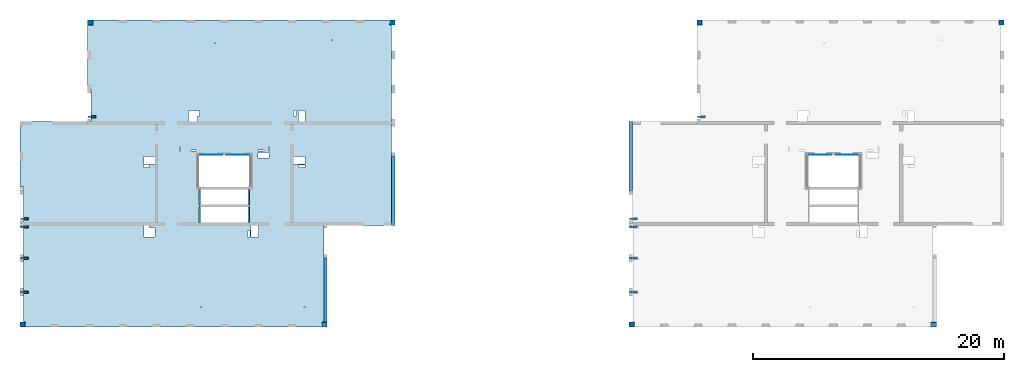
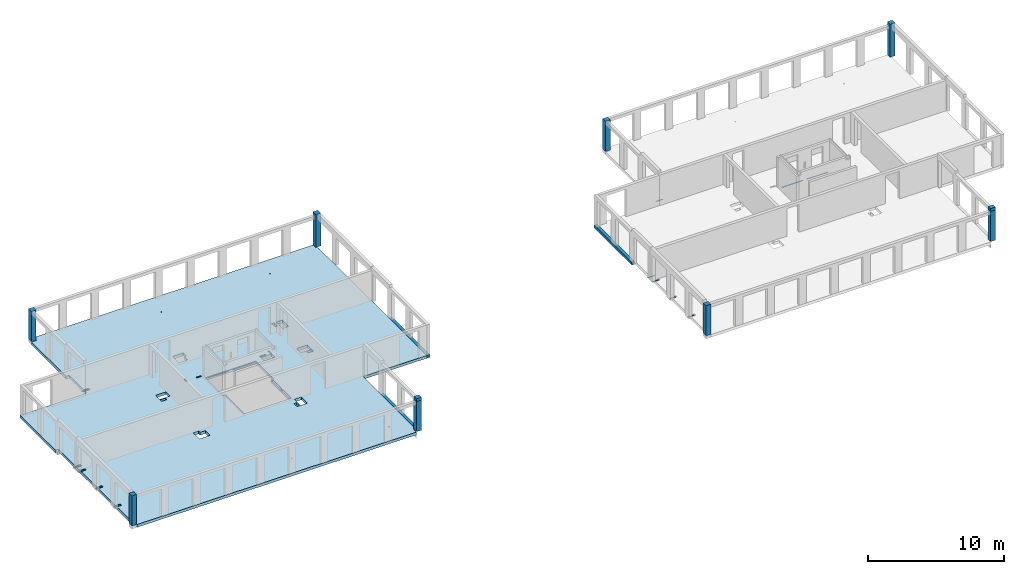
# One storey, part 1 of 8: 14 beams, 10 columns, 4 slabs, 33 openings.
"""IFC2X3 building model written with IfcOpenShell, lengths in millimetres."""

from ifc_helpers import new_model, entity, si_unit, converted_unit, derived_unit, direction, frame, frame_2d, origin, origin_2d_with_axis, place, context, subcontext, project, spatial, polyline, rectangle, circle, outline, extrude, source, transform, mapped, material, layer, layer_set, layer_usage, type_object, type_shapes, element, save


model = new_model("IFC2X3")

# Units and contexts
model_context = context("Model", 3, precision=0.01, world=origin(), true_north=direction((6.12303176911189e-17, 1.0)))
body_context = subcontext(model_context, "Body", "Model", "MODEL_VIEW")
ifc_project = project(units=[si_unit("LENGTHUNIT", "METRE", prefix="MILLI"), si_unit("AREAUNIT", "SQUARE_METRE"), si_unit("VOLUMEUNIT", "CUBIC_METRE"), converted_unit("PLANEANGLEUNIT", "DEGREE", entity("IfcRatioMeasure", 0.0174532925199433), si_unit("PLANEANGLEUNIT", "RADIAN"), dimensions=[0, 0, 0, 0, 0, 0, 0]), si_unit("MASSUNIT", "GRAM", prefix="KILO"), derived_unit("MASSDENSITYUNIT", [(si_unit("MASSUNIT", "GRAM", prefix="KILO"), 1), (si_unit("LENGTHUNIT", "METRE"), -3)]), si_unit("TIMEUNIT", "SECOND"), si_unit("FREQUENCYUNIT", "HERTZ"), si_unit("THERMODYNAMICTEMPERATUREUNIT", "DEGREE_CELSIUS"), derived_unit("THERMALTRANSMITTANCEUNIT", [(si_unit("MASSUNIT", "GRAM", prefix="KILO"), 1), (si_unit("THERMODYNAMICTEMPERATUREUNIT", "KELVIN"), -1), (si_unit("TIMEUNIT", "SECOND"), -3)]), derived_unit("VOLUMETRICFLOWRATEUNIT", [(si_unit("LENGTHUNIT", "METRE"), 3), (si_unit("TIMEUNIT", "SECOND"), -1)]), si_unit("ELECTRICCURRENTUNIT", "AMPERE"), si_unit("ELECTRICVOLTAGEUNIT", "VOLT"), si_unit("POWERUNIT", "WATT"), si_unit("FORCEUNIT", "NEWTON", prefix="KILO"), si_unit("ILLUMINANCEUNIT", "LUX"), si_unit("LUMINOUSFLUXUNIT", "LUMEN"), si_unit("LUMINOUSINTENSITYUNIT", "CANDELA"), derived_unit("USERDEFINED", [(si_unit("MASSUNIT", "GRAM", prefix="KILO"), -1), (si_unit("LENGTHUNIT", "METRE"), -2), (si_unit("TIMEUNIT", "SECOND"), 3), (si_unit("LUMINOUSFLUXUNIT", "LUMEN"), 1)]), derived_unit("LINEARVELOCITYUNIT", [(si_unit("LENGTHUNIT", "METRE"), 1), (si_unit("TIMEUNIT", "SECOND"), -1)]), si_unit("PRESSUREUNIT", "PASCAL"), derived_unit("USERDEFINED", [(si_unit("LENGTHUNIT", "METRE"), -2), (si_unit("MASSUNIT", "GRAM", prefix="KILO"), 1), (si_unit("TIMEUNIT", "SECOND"), -2)])], contexts=[model_context])

# Site, building, storey
site_placement = place(None, origin())
site = spatial("IfcSite", under=ifc_project, at=site_placement, Name="Default", CompositionType="ELEMENT")
building_placement = place(site_placement, origin())
building = spatial("IfcBuilding", under=site, at=building_placement, Name="niet gebruiken", CompositionType="ELEMENT")
storey_placement = place(building_placement, frame((0.0, 0.0, 36360.0)))
storey = spatial("IfcBuildingStorey", under=building, at=storey_placement, Name="12 twaalfde verdieping", CompositionType="ELEMENT", Elevation=36360.0)

# Columns
ifc_material_1 = material(Name="NLRS_f2_beton prefab")
column_type_1 = type_object("IfcColumnType", Name="410x410", PredefinedType="COLUMN", material=ifc_material_1)
shared_shape_1 = source(origin(), body_context, "Body", "SweptSolid", [
    extrude(rectangle(XDim=410.0, YDim=410.0, at=origin_2d_with_axis()), frame((0.0, 0.0, 36290.0), z_axis=(0.0, 0.0, 1.0), x_axis=(0.0, -1.0, 0.0)), (0.0, 0.0, 1.0), 2699.99999999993),
])
type_shapes(column_type_1, [shared_shape_1])
for number, where, name in (
    (1, (99795.0, 28961.0, -36360.0), "NLRS_28. kolom vierkant_gen:410x410"),
    (2, (81105.0, 53051.0, -36360.0), "NLRS_28. kolom vierkant_gen:410x410"),
    (3, (51195.0, 28961.0, -36360.0), "NLRS_28. kolom vierkant_gen:410x410"),
    (4, (32505.0, 53051.0, -36360.0), "NLRS_28. kolom vierkant_gen:410x410"),
):
    element("IfcColumn", number, at=place(storey_placement, frame(where)), inside=storey, type_object=column_type_1, material=ifc_material_1, Name=name, ObjectType="410x410", context=body_context, shape_type="MappedRepresentation", body=[
        mapped(shared_shape_1, transform((0.0, 0.0, 0.0), scale=1.0)),
    ])
column_type_2 = type_object("IfcColumnType", Name="410x410", PredefinedType="COLUMN", material=ifc_material_1)
shared_shape_2 = source(origin(), body_context, "Body", "SweptSolid", [
    extrude(rectangle(XDim=410.0, YDim=410.0, at=origin_2d_with_axis()), frame((0.0, 0.0, 36290.0), z_axis=(0.0, 0.0, 1.0), x_axis=(0.0, -1.0, 0.0)), (0.0, 0.0, 1.0), 2700.0),
])
type_shapes(column_type_2, [shared_shape_2])
for number, where, z_axis, x_axis, name in (
    (5, (75705.0, 28961.0, -36360.0), (0.0, 0.0, 1.0), (0.0, 1.0, 0.0), "NLRS_28. kolom vierkant_gen1:410x410"),
    (6, (27105.0, 28961.0, -36360.0), (0.0, 0.0, 1.0), (0.0, 1.0, 0.0), "NLRS_28. kolom vierkant_gen1:410x410"),
):
    element("IfcColumn", number, at=place(storey_placement, frame(where, z_axis=z_axis, x_axis=x_axis)), inside=storey, type_object=column_type_2, material=ifc_material_1, Name=name, ObjectType="410x410", context=body_context, shape_type="MappedRepresentation", body=[
        mapped(shared_shape_2, transform((0.0, 0.0, 0.0), scale=1.0)),
    ])
column_type_3 = type_object("IfcColumnType", Name="410x410", PredefinedType="COLUMN", material=ifc_material_1)
shared_shape_3 = source(origin(), body_context, "Body", "SweptSolid", [
    extrude(rectangle(XDim=410.000000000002, YDim=409.999999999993, at=origin_2d_with_axis()), frame((105195.0, 53051.0, 36290.0), z_axis=(0.0, 0.0, 1.0), x_axis=(0.0, -1.0, 0.0)), (0.0, 0.0, 1.0), 2950.00000000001),
])
type_shapes(column_type_3, [shared_shape_3])
column_1_placement = place(storey_placement, frame((0.0, 0.0, -36360.0)))
element("IfcColumn", 7, at=column_1_placement, inside=storey, type_object=column_type_3, material=ifc_material_1, Name="NLRS_28. kolom vierkant_gen:410x410", ObjectType="410x410", context=body_context, shape_type="MappedRepresentation", body=[
    mapped(shared_shape_3, transform((0.0, 0.0, 0.0), scale=1.0)),
])
column_type_4 = type_object("IfcColumnType", Name="410x410", PredefinedType="COLUMN", material=ifc_material_1)
shared_shape_4 = source(origin(), body_context, "Body", "SweptSolid", [
    extrude(rectangle(XDim=410.000000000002, YDim=410.000000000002, at=frame_2d((8.66862137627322e-12, 0.0), x_axis=(1.0, 0.0))), frame((56595.0, 53051.0, 36290.0), z_axis=(0.0, 0.0, 1.0), x_axis=(0.0, -1.0, 0.0)), (0.0, 0.0, 1.0), 2950.00000000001),
])
type_shapes(column_type_4, [shared_shape_4])
column_2_placement = place(storey_placement, frame((0.0, 0.0, -36360.0)))
element("IfcColumn", 8, at=column_2_placement, inside=storey, type_object=column_type_4, material=ifc_material_1, Name="NLRS_28. kolom vierkant_gen:410x410", ObjectType="410x410", context=body_context, shape_type="MappedRepresentation", body=[
    mapped(shared_shape_4, transform((0.0, 0.0, 0.0), scale=1.0)),
])
column_type_5 = type_object("IfcColumnType", Name="410x360", PredefinedType="COLUMN", material=ifc_material_1)
shared_shape_5 = source(origin(), body_context, "Body", "SweptSolid", [
    extrude(rectangle(XDim=360.0, YDim=409.999999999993, at=origin_2d_with_axis()), frame((99795.0, 28936.0, 38990.0), z_axis=(0.0, 0.0, 1.0), x_axis=(0.0, -1.0, 0.0)), (0.0, 0.0, 1.0), 250.000000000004),
])
type_shapes(column_type_5, [shared_shape_5])
column_3_placement = place(storey_placement, frame((0.0, 0.0, -36360.0)))
element("IfcColumn", 9, at=column_3_placement, inside=storey, type_object=column_type_5, material=ifc_material_1, Name="NLRS_28. kolom vierkant_gen:410x360", ObjectType="410x360", context=body_context, shape_type="MappedRepresentation", body=[
    mapped(shared_shape_5, transform((0.0, 0.0, 0.0), scale=1.0)),
])
column_type_6 = type_object("IfcColumnType", Name="410x360", PredefinedType="COLUMN", material=ifc_material_1)
shared_shape_6 = source(origin(), body_context, "Body", "SweptSolid", [
    extrude(rectangle(XDim=360.0, YDim=410.000000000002, at=origin_2d_with_axis()), frame((51195.0, 28936.0, 38990.0), z_axis=(0.0, 0.0, 1.0), x_axis=(0.0, -1.0, 0.0)), (0.0, 0.0, 1.0), 250.000000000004),
])
type_shapes(column_type_6, [shared_shape_6])
column_4_placement = place(storey_placement, frame((0.0, 0.0, -36360.0)))
element("IfcColumn", 10, at=column_4_placement, inside=storey, type_object=column_type_6, material=ifc_material_1, Name="NLRS_28. kolom vierkant_gen:410x360", ObjectType="410x360", context=body_context, shape_type="MappedRepresentation", body=[
    mapped(shared_shape_6, transform((0.0, 0.0, 0.0), scale=1.0)),
])

# Beams
ifc_material_2 = material(Name="NLRS_h2_staal")
beam_type_1 = type_object("IfcBeamType", Name="ligger stripstaal RECT_120x10", PredefinedType="BEAM", material=ifc_material_2)
shared_shape_7 = source(origin(), body_context, "Body", "SweptSolid", [
    extrude(rectangle(XDim=599.999999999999, YDim=120.0, at=origin_2d_with_axis()), frame((0.0, 0.0, -5.0), z_axis=(0.0, 0.0, 1.0), x_axis=(-1.0, 0.0, 0.0)), (0.0, 0.0, 1.0), 9.99999999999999),
    extrude(rectangle(XDim=599.999999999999, YDim=120.0, at=origin_2d_with_axis()), frame((0.0, 0.0, -5.0), z_axis=(0.0, 0.0, 1.0), x_axis=(-1.0, 0.0, 0.0)), (0.0, 0.0, 1.0), 9.99999999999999),
])
type_shapes(beam_type_1, [shared_shape_7])
for number, where, name in (
    (11, (75835.0, 31556.0, -115.0), "NLRS_28.11_SF_WPB_stalen ligger stripstaal_gen:ligger stripstaal RECT_120x10"),
    (12, (75835.0, 34256.0, -115.0), "NLRS_28.11_SF_WPB_stalen ligger stripstaal_gen:ligger stripstaal RECT_120x10"),
    (13, (75835.0, 36766.0, -115.0), "NLRS_28.11_SF_WPB_stalen ligger stripstaal_gen:ligger stripstaal RECT_120x10"),
    (14, (27235.0, 31556.0, -115.0), "NLRS_28.11_SF_WPB_stalen ligger stripstaal_gen:ligger stripstaal RECT_120x10"),
    (15, (27235.0, 34256.0, -115.0), "NLRS_28.11_SF_WPB_stalen ligger stripstaal_gen:ligger stripstaal RECT_120x10"),
    (16, (27235.0, 36766.0, -115.0), "NLRS_28.11_SF_WPB_stalen ligger stripstaal_gen:ligger stripstaal RECT_120x10"),
):
    element("IfcBeam", number, at=place(storey_placement, frame(where)), inside=storey, type_object=beam_type_1, material=ifc_material_2, Name=name, ObjectType="ligger stripstaal RECT_120x10", context=body_context, shape_type="MappedRepresentation", body=[
        mapped(shared_shape_7, transform((0.0, 0.0, 0.0), scale=1.0)),
    ])
beam_type_2 = type_object("IfcBeamType", Name="NLRS_28.11_SF_WPB_Halfen 40-22_gen:ligger stripstaal RECT_100x10", PredefinedType="BEAM")
beam_1_placement = place(storey_placement, frame((89865.0, 42496.0, -160.0)))
element("IfcBeam", 17, at=beam_1_placement, inside=storey, type_object=beam_type_2, material=ifc_material_2, Name="NLRS_28.11_SF_WPB_Halfen 40-22_gen:ligger stripstaal RECT_100x10", ObjectType="NLRS_28.11_SF_WPB_Halfen 40-22_gen:ligger stripstaal RECT_100x10", context=body_context, shape_type="SweptSolid", body=[
    extrude(outline(polyline([(-20.0, -8.0), (-9.0, -8.0), (-9.0, 0.0), (-11.0, 0.0), (-11.0, -6.0), (-18.0, -6.0), (-18.0, 13.0), (18.0, 13.0), (18.0, -6.0), (11.0, -6.0), (11.0, 0.0), (9.0, 0.0), (9.0, -8.0), (20.0, -8.0), (20.0, 15.0), (-20.0, 15.0), (-20.0, -8.0)])), frame((0.0, 8.0, 20.0), z_axis=(1.0, 0.0, 0.0), x_axis=(0.0, 0.0, -1.0)), (0.0, 0.0, 1.0), 1760.00000000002),
])
beam_2_placement = place(storey_placement, frame((91975.0, 42496.0, -160.0)))
element("IfcBeam", 18, at=beam_2_placement, inside=storey, type_object=beam_type_2, material=ifc_material_2, Name="NLRS_28.11_SF_WPB_Halfen 40-22_gen:ligger stripstaal RECT_100x10", ObjectType="NLRS_28.11_SF_WPB_Halfen 40-22_gen:ligger stripstaal RECT_100x10", context=body_context, shape_type="SweptSolid", body=[
    extrude(outline(polyline([(-20.0, -8.0), (-9.0, -8.0), (-9.0, 0.0), (-11.0, 0.0), (-11.0, -6.0), (-18.0, -6.0), (-18.0, 13.0), (18.0, 13.0), (18.0, -6.0), (11.0, -6.0), (11.0, 0.0), (9.0, 0.0), (9.0, -8.0), (20.0, -8.0), (20.0, 15.0), (-20.0, 15.0), (-20.0, -8.0)])), frame((0.0, 8.0, 20.0), z_axis=(1.0, 0.0, 0.0), x_axis=(0.0, 0.0, -1.0)), (0.0, 0.0, 1.0), 1760.0),
])
for number, where, name in (
    (19, (41264.9998491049, 42496.0, -160.0), "NLRS_28.11_SF_WPB_Halfen 40-22_gen:ligger stripstaal RECT_100x10"),
    (20, (43374.999849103, 42496.0, -160.0), "NLRS_28.11_SF_WPB_Halfen 40-22_gen:ligger stripstaal RECT_100x10"),
):
    element("IfcBeam", number, at=place(storey_placement, frame(where)), inside=storey, type_object=beam_type_2, material=ifc_material_2, Name=name, ObjectType="NLRS_28.11_SF_WPB_Halfen 40-22_gen:ligger stripstaal RECT_100x10", context=body_context, shape_type="SweptSolid", body=[
        extrude(outline(polyline([(-20.0, -8.0), (-9.0, -8.0), (-9.0, 0.0), (-11.0, 0.0), (-11.0, -6.0), (-18.0, -6.0), (-18.0, 13.0), (18.0, 13.0), (18.0, -6.0), (11.0, -6.0), (11.0, 0.0), (9.0, 0.0), (9.0, -8.0), (20.0, -8.0), (20.0, 15.0), (-20.0, 15.0), (-20.0, -8.0)])), frame((0.0, 8.0, 20.0), z_axis=(1.0, 0.0, 0.0), x_axis=(0.0, 0.0, -1.0)), (0.0, 0.0, 1.0), 1760.00000000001),
    ])
beam_type_3 = type_object("IfcBeamType", Name="ligger stripstaal RECT_120x10", PredefinedType="BEAM", material=ifc_material_2)
shared_shape_8 = source(origin(), body_context, "Body", "SweptSolid", [
    extrude(rectangle(XDim=120.0, YDim=600.000000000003, at=origin_2d_with_axis()), frame((0.0, 0.0, -5.0), z_axis=(0.0, 0.0, 1.0), x_axis=(0.0, 1.0, 0.0)), (0.0, 0.0, 1.0), 9.99999999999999),
    extrude(rectangle(XDim=120.0, YDim=600.000000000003, at=origin_2d_with_axis()), frame((0.0, 0.0, -5.0), z_axis=(0.0, 0.0, 1.0), x_axis=(0.0, 1.0, 0.0)), (0.0, 0.0, 1.0), 9.99999999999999),
])
type_shapes(beam_type_3, [shared_shape_8])
for number, where, name in (
    (21, (75835.0, 37386.0, -115.0), "NLRS_28.11_SF_WPB_stalen ligger stripstaal_gen:ligger stripstaal RECT_120x10"),
    (22, (81235.0, 45521.0, -115.0), "NLRS_28.11_SF_WPB_stalen ligger stripstaal_gen:ligger stripstaal RECT_120x10"),
    (23, (27235.0, 37386.0, -115.0), "NLRS_28.11_SF_WPB_stalen ligger stripstaal_gen:ligger stripstaal RECT_120x10"),
    (24, (32635.0, 45521.0, -115.0), "NLRS_28.11_SF_WPB_stalen ligger stripstaal_gen:ligger stripstaal RECT_120x10"),
):
    element("IfcBeam", number, at=place(storey_placement, frame(where)), inside=storey, type_object=beam_type_3, material=ifc_material_2, Name=name, ObjectType="ligger stripstaal RECT_120x10", context=body_context, shape_type="MappedRepresentation", body=[
        mapped(shared_shape_8, transform((0.0, 0.0, 0.0), scale=1.0)),
    ])

# Slab, openings
ifc_material_3 = material(Name="NLRS_f2_beton ihwg")
ifc_layer = layer(ifc_material_3, 250.0)
ifc_layer_set = layer_set([ifc_layer], Name="Floor:NLRS_23.21_FL_beton ihwg d=250_gen")
ifc_layer_usage_1 = layer_usage(ifc_layer_set, "AXIS3", "POSITIVE", 0.0)
slab_1_placement = place(storey_placement, frame((26900.0, 28756.0, -340.0)))
slab_1 = element("IfcSlab", 25, at=slab_1_placement, inside=storey, material=ifc_layer_usage_1, Name="Floor:NLRS_23.21_FL_beton ihwg d=250_gen", ObjectType="Floor:NLRS_23.21_FL_beton ihwg d=250_gen", PredefinedType="FLOOR", context=body_context, shape_type="SweptSolid", body=[
    extrude(outline(polyline([(8994.99996701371, 12250.0), (-14665.0, 12250.0), (-14665.0, 11840.0), (-14805.0, 11840.0), (-14805.0, 4060.0), (-14825.0, 4060.0), (-14825.0, -4150.0), (-9425.0, -4150.0), (-9425.0, -11890.0), (-9265.0, -11890.0), (-9265.0, -12250.0), (14395.0, -12250.0), (14395.0, -11820.0), (14535.0, -11820.0), (14535.0, -4060.0), (14555.0, -4060.0), (14555.0, -1040.0), (14825.0, -1040.0), (14825.0, 4150.0), (9155.0, 4150.0), (9155.0, 6750.0), (9425.0, 6750.0), (9425.0, 11820.0), (8994.99996701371, 11820.0), (8994.99996701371, 12250.0)])), frame((14825.0, 12250.0, 250.0), z_axis=(0.0, 0.0, -1.0), x_axis=(-1.0, 0.0, 0.0)), (0.0, 0.0, 1.0), 249.999999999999),
])
opening_1_placement = place(storey_placement, frame((26900.0, 28756.0, -340.0)))
element("IfcOpeningElement", 26, at=opening_1_placement, cuts=slab_1, ObjectType="Opening", context=body_context, shape_type="SweptSolid", body=[
    extrude(circle(Radius=37.5, at=frame_2d((-7875.0, -10650.0), x_axis=(1.0, 0.0))), frame((14825.0, 12250.0, 250.0), z_axis=(0.0, 0.0, -1.0), x_axis=(-1.0, 0.0, 0.0)), (0.0, 0.0, 1.0), 249.999999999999),
])
opening_2_placement = place(storey_placement, frame((26900.0, 28756.0, -340.0)))
element("IfcOpeningElement", 27, at=opening_2_placement, cuts=slab_1, ObjectType="Opening", context=body_context, shape_type="SweptSolid", body=[
    extrude(circle(Radius=37.5, at=frame_2d((-10075.0, 10650.0), x_axis=(1.0, 0.0))), frame((14825.0, 12250.0, 250.0), z_axis=(0.0, 0.0, -1.0), x_axis=(-1.0, 0.0, 0.0)), (0.0, 0.0, 1.0), 249.999999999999),
])
opening_3_placement = place(storey_placement, frame((26900.0, 28756.0, -340.0)))
element("IfcOpeningElement", 28, at=opening_3_placement, cuts=slab_1, ObjectType="Opening", context=body_context, shape_type="SweptSolid", body=[
    extrude(circle(Radius=37.5, at=frame_2d((-725.0, 10400.0), x_axis=(1.0, 0.0))), frame((14825.0, 12250.0, 250.0), z_axis=(0.0, 0.0, -1.0), x_axis=(-1.0, 0.0, 0.0)), (0.0, 0.0, 1.0), 249.999999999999),
])
opening_4_placement = place(storey_placement, frame((26900.0, 28756.0, -340.0)))
element("IfcOpeningElement", 29, at=opening_4_placement, cuts=slab_1, ObjectType="Opening", context=body_context, shape_type="SweptSolid", body=[
    extrude(circle(Radius=37.5, at=frame_2d((375.0, -10650.0), x_axis=(1.0, 0.0))), frame((14825.0, 12250.0, 250.0), z_axis=(0.0, 0.0, -1.0), x_axis=(-1.0, 0.0, 0.0)), (0.0, 0.0, 1.0), 249.999999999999),
])
opening_5_placement = place(slab_1_placement, origin())
element("IfcOpeningElement", 30, at=opening_5_placement, cuts=slab_1, ObjectType="Opening", context=body_context, shape_type="SweptSolid", body=[
    extrude(rectangle(XDim=110.000000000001, YDim=1220.0, at=origin_2d_with_axis()), frame((14344.9999671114, 10380.0, 210.0)), (0.0, 0.0, 1.0), 39.9999999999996),
])
opening_6_placement = place(slab_1_placement, origin())
element("IfcOpeningElement", 31, at=opening_6_placement, cuts=slab_1, ObjectType="Opening", context=body_context, shape_type="SweptSolid", body=[
    extrude(rectangle(XDim=110.000000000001, YDim=1220.0, at=origin_2d_with_axis()), frame((18255.0, 10380.0, 210.0)), (0.0, 0.0, 1.0), 39.9999999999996),
])
opening_7_placement = place(slab_1_placement, origin())
element("IfcOpeningElement", 32, at=opening_7_placement, cuts=slab_1, ObjectType="Opening", context=body_context, shape_type="SweptSolid", body=[
    extrude(rectangle(XDim=110.000000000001, YDim=1220.0, at=origin_2d_with_axis()), frame((18255.0, 8960.0, 210.0)), (0.0, 0.0, 1.0), 39.9999999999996),
])
opening_8_placement = place(slab_1_placement, origin())
element("IfcOpeningElement", 33, at=opening_8_placement, cuts=slab_1, ObjectType="Opening", context=body_context, shape_type="SweptSolid", body=[
    extrude(rectangle(XDim=110.000000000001, YDim=1220.0, at=origin_2d_with_axis()), frame((14344.9999671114, 8960.0, 210.0)), (0.0, 0.0, 1.0), 39.9999999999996),
])
opening_9_placement = place(slab_1_placement, origin())
element("IfcOpeningElement", 34, at=opening_9_placement, cuts=slab_1, ObjectType="Opening", context=body_context, shape_type="SweptSolid", body=[
    extrude(rectangle(XDim=400.000000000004, YDim=200.000000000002, at=origin_2d_with_axis()), frame((470.0, 8630.0, 220.0)), (0.0, 0.0, 1.0), 30.0000000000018),
])
opening_10_placement = place(slab_1_placement, origin())
element("IfcOpeningElement", 35, at=opening_10_placement, cuts=slab_1, ObjectType="Opening", context=body_context, shape_type="SweptSolid", body=[
    extrude(rectangle(XDim=200.000000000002, YDim=400.000000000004, at=origin_2d_with_axis()), frame((490.0, 8000.0, 220.0), z_axis=(0.0, 0.0, 1.0), x_axis=(0.0, -1.0, 0.0)), (0.0, 0.0, 1.0), 30.0000000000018),
])
opening_11_placement = place(slab_1_placement, origin())
element("IfcOpeningElement", 36, at=opening_11_placement, cuts=slab_1, ObjectType="Opening", context=body_context, shape_type="SweptSolid", body=[
    extrude(rectangle(XDim=200.000000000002, YDim=400.000000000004, at=origin_2d_with_axis()), frame((490.0, 5500.0, 220.0), z_axis=(0.0, 0.0, 1.0), x_axis=(0.0, -1.0, 0.0)), (0.0, 0.0, 1.0), 30.0000000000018),
])
opening_12_placement = place(slab_1_placement, origin())
element("IfcOpeningElement", 37, at=opening_12_placement, cuts=slab_1, ObjectType="Opening", context=body_context, shape_type="SweptSolid", body=[
    extrude(rectangle(XDim=200.000000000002, YDim=400.000000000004, at=origin_2d_with_axis()), frame((490.0, 2800.0, 220.0), z_axis=(0.0, 0.0, 1.0), x_axis=(0.0, -1.0, 0.0)), (0.0, 0.0, 1.0), 30.0000000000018),
])
opening_13_placement = place(slab_1_placement, origin())
element("IfcOpeningElement", 38, at=opening_13_placement, cuts=slab_1, ObjectType="Opening", context=body_context, shape_type="SweptSolid", body=[
    extrude(rectangle(XDim=400.000000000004, YDim=199.999999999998, at=origin_2d_with_axis()), frame((5870.0, 16765.0, 220.0)), (0.0, 0.0, 1.0), 30.0000000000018),
])
opening_14_placement = place(slab_1_placement, origin())
element("IfcOpeningElement", 39, at=opening_14_placement, cuts=slab_1, ObjectType="Opening", context=body_context, shape_type="SweptSolid", body=[
    extrude(rectangle(XDim=900.000000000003, YDim=729.999999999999, at=origin_2d_with_axis()), frame((13800.0, 16850.0, 0.0), z_axis=(0.0, 0.0, 1.0), x_axis=(0.0, 1.0, 0.0)), (0.0, 0.0, 1.0), 249.999999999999),
])
opening_15_placement = place(slab_1_placement, origin())
element("IfcOpeningElement", 40, at=opening_15_placement, cuts=slab_1, ObjectType="Opening", context=body_context, shape_type="SweptSolid", body=[
    extrude(rectangle(XDim=170.000000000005, YDim=450.000000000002, at=origin_2d_with_axis()), frame((14250.0, 17075.0, 0.0), z_axis=(0.0, 0.0, 1.0), x_axis=(-1.0, 0.0, 0.0)), (0.0, 0.0, 1.0), 249.999999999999),
])
opening_16_placement = place(slab_1_placement, origin())
element("IfcOpeningElement", 41, at=opening_16_placement, cuts=slab_1, ObjectType="Opening", context=body_context, shape_type="SweptSolid", body=[
    extrude(rectangle(XDim=900.000000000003, YDim=700.000000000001, at=origin_2d_with_axis()), frame((10325.0, 7550.0, 0.0), z_axis=(0.0, 0.0, 1.0), x_axis=(-1.0, 0.0, 0.0)), (0.0, 0.0, 1.0), 249.999999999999),
])
opening_17_placement = place(slab_1_placement, origin())
element("IfcOpeningElement", 42, at=opening_17_placement, cuts=slab_1, ObjectType="Opening", context=body_context, shape_type="SweptSolid", body=[
    extrude(rectangle(XDim=200.000000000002, YDim=450.000000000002, at=origin_2d_with_axis()), frame((10100.0, 8000.0, 0.0), z_axis=(0.0, 0.0, 1.0), x_axis=(0.0, -1.0, 0.0)), (0.0, 0.0, 1.0), 249.999999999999),
])
opening_18_placement = place(slab_1_placement, origin())
element("IfcOpeningElement", 43, at=opening_18_placement, cuts=slab_1, ObjectType="Opening", context=body_context, shape_type="SweptSolid", body=[
    extrude(rectangle(XDim=450.000000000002, YDim=900.000000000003, at=origin_2d_with_axis()), frame((19430.0, 13720.0, 0.0), z_axis=(0.0, 0.0, 1.0), x_axis=(0.0, -1.0, 0.0)), (0.0, 0.0, 1.0), 249.999999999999),
])
opening_19_placement = place(slab_1_placement, origin())
element("IfcOpeningElement", 44, at=opening_19_placement, cuts=slab_1, ObjectType="Opening", context=body_context, shape_type="SweptSolid", body=[
    extrude(rectangle(XDim=900.000000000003, YDim=600.000000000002, at=origin_2d_with_axis()), frame((10325.0, 13330.0, 0.0), z_axis=(0.0, 0.0, 1.0), x_axis=(-1.0, 0.0, 0.0)), (0.0, 0.0, 1.0), 249.999999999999),
])
opening_20_placement = place(slab_1_placement, origin())
element("IfcOpeningElement", 45, at=opening_20_placement, cuts=slab_1, ObjectType="Opening", context=body_context, shape_type="SweptSolid", body=[
    extrude(rectangle(XDim=900.000000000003, YDim=499.999999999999, at=origin_2d_with_axis()), frame((22475.0, 16850.0, 0.0), z_axis=(0.0, 0.0, 1.0), x_axis=(0.0, 1.0, 0.0)), (0.0, 0.0, 1.0), 249.999999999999),
])
opening_21_placement = place(slab_1_placement, origin())
element("IfcOpeningElement", 46, at=opening_21_placement, cuts=slab_1, ObjectType="Opening", context=body_context, shape_type="SweptSolid", body=[
    extrude(rectangle(XDim=899.999999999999, YDim=600.000000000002, at=origin_2d_with_axis()), frame((18729.9818996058, 7650.0, 0.0), z_axis=(0.0, 0.0, 1.0), x_axis=(0.0, 1.0, 0.0)), (0.0, 0.0, 1.0), 249.999999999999),
])
opening_22_placement = place(slab_1_placement, origin())
element("IfcOpeningElement", 47, at=opening_22_placement, cuts=slab_1, ObjectType="Opening", context=body_context, shape_type="SweptSolid", body=[
    extrude(rectangle(XDim=900.000000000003, YDim=600.000000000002, at=origin_2d_with_axis()), frame((22275.0, 13330.0, 0.0), z_axis=(0.0, 0.0, 1.0), x_axis=(-1.0, 0.0, 0.0)), (0.0, 0.0, 1.0), 249.999999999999),
])
opening_23_placement = place(slab_1_placement, origin())
element("IfcOpeningElement", 48, at=opening_23_placement, cuts=slab_1, ObjectType="Opening", context=body_context, shape_type="SweptSolid", body=[
    extrude(rectangle(XDim=1760.00000000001, YDim=23.0000000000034, at=origin_2d_with_axis()), frame((15244.9998491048, 13751.5, 180.0)), (0.0, 0.0, 1.0), 39.9999999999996),
])
opening_24_placement = place(slab_1_placement, origin())
element("IfcOpeningElement", 49, at=opening_24_placement, cuts=slab_1, ObjectType="Opening", context=body_context, shape_type="SweptSolid", body=[
    extrude(rectangle(XDim=1760.00000000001, YDim=23.0000000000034, at=origin_2d_with_axis()), frame((17354.999849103, 13751.5, 180.0)), (0.0, 0.0, 1.0), 39.9999999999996),
])
opening_25_placement = place(slab_1_placement, origin())
element("IfcOpeningElement", 50, at=opening_25_placement, cuts=slab_1, ObjectType="Opening", context=body_context, shape_type="SweptSolid", body=[
    extrude(rectangle(XDim=100.000000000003, YDim=340.000000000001, at=origin_2d_with_axis()), frame((19865.0, 14210.0, 0.0), z_axis=(0.0, 0.0, 1.0), x_axis=(-1.0, 0.0, 0.0)), (0.0, 0.0, 1.0), 249.999999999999),
])
opening_26_placement = place(slab_1_placement, origin())
element("IfcOpeningElement", 51, at=opening_26_placement, cuts=slab_1, ObjectType="Opening", context=body_context, shape_type="SweptSolid", body=[
    extrude(rectangle(XDim=100.000000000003, YDim=490.000000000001, at=origin_2d_with_axis()), frame((19225.0, 14090.0, 0.0), z_axis=(0.0, 0.0, 1.0), x_axis=(0.0, -1.0, 0.0)), (0.0, 0.0, 1.0), 249.999999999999),
])
opening_27_placement = place(slab_1_placement, origin())
element("IfcOpeningElement", 52, at=opening_27_placement, cuts=slab_1, ObjectType="Opening", context=body_context, shape_type="SweptSolid", body=[
    extrude(rectangle(XDim=100.000000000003, YDim=440.000000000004, at=origin_2d_with_axis()), frame((13805.0, 14090.0, 0.0), z_axis=(0.0, 0.0, 1.0), x_axis=(0.0, -1.0, 0.0)), (0.0, 0.0, 1.0), 249.999999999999),
])
opening_28_placement = place(slab_1_placement, origin())
element("IfcOpeningElement", 53, at=opening_28_placement, cuts=slab_1, ObjectType="Opening", context=body_context, shape_type="SweptSolid", body=[
    extrude(rectangle(XDim=100.000000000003, YDim=340.000000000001, at=origin_2d_with_axis()), frame((12755.0, 14210.0, 0.0), z_axis=(0.0, 0.0, 1.0), x_axis=(-1.0, 0.0, 0.0)), (0.0, 0.0, 1.0), 249.999999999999),
])
opening_29_placement = place(slab_1_placement, origin())
element("IfcOpeningElement", 54, at=opening_29_placement, cuts=slab_1, ObjectType="Opening", context=body_context, shape_type="SweptSolid", body=[
    extrude(rectangle(XDim=230.0, YDim=450.000000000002, at=origin_2d_with_axis()), frame((10100.0000865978, 12845.0002270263, 0.0), z_axis=(0.0, 0.0, 1.0), x_axis=(0.0, -1.0, 0.0)), (0.0, 0.0, 1.0), 249.999999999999),
])
opening_30_placement = place(slab_1_placement, origin())
element("IfcOpeningElement", 55, at=opening_30_placement, cuts=slab_1, ObjectType="Opening", context=body_context, shape_type="SweptSolid", body=[
    extrude(rectangle(XDim=220.000000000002, YDim=450.000000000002, at=origin_2d_with_axis()), frame((21935.0, 17075.0, 0.0), z_axis=(0.0, 0.0, 1.0), x_axis=(-1.0, 0.0, 0.0)), (0.0, 0.0, 1.0), 249.999999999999),
])
opening_31_placement = place(slab_1_placement, origin())
element("IfcOpeningElement", 56, at=opening_31_placement, cuts=slab_1, ObjectType="Opening", context=body_context, shape_type="SweptSolid", body=[
    extrude(rectangle(XDim=220.000000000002, YDim=450.000000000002, at=origin_2d_with_axis()), frame((22500.0, 12840.0, 0.0), z_axis=(0.0, 0.0, 1.0), x_axis=(0.0, -1.0, 0.0)), (0.0, 0.0, 1.0), 249.999999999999),
])
opening_32_placement = place(slab_1_placement, origin())
element("IfcOpeningElement", 57, at=opening_32_placement, cuts=slab_1, ObjectType="Opening", context=body_context, shape_type="SweptSolid", body=[
    extrude(rectangle(XDim=220.000000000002, YDim=450.000000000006, at=origin_2d_with_axis()), frame((18240.0, 7425.0, 0.0)), (0.0, 0.0, 1.0), 249.999999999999),
])
opening_33_placement = place(slab_1_placement, frame((16300.0, 10378.75, 250.0)))
element("IfcOpeningElement", 58, at=opening_33_placement, cuts=slab_1, Name="Floor:NLRS_23.21_FL_beton ihwg d=250_gen:2", ObjectType="Opening", context=body_context, shape_type="SweptSolid", body=[
    extrude(outline(polyline([(-1899.99998355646, -2028.75000000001), (1900.00001644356, -2028.75000000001), (1900.00001644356, -808.750000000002), (1999.9999835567, -808.750000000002), (1999.9999835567, -608.75), (1900.00001644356, -608.75), (1900.00001644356, 751.250000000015), (2134.99998355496, 751.250000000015), (2134.99998355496, 3361.24999999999), (-2135.00001644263, 3361.24999999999), (-2135.00001644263, 751.250000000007), (-1899.99998355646, 751.250000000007), (-1899.99998355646, -608.750000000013), (-2000.00001644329, -608.750000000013), (-2000.00001644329, -808.750000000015), (-1899.99998355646, -808.750000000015), (-1899.99998355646, -2028.75000000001)])), frame((0.0, 0.0, 0.0), z_axis=(0.0, 0.0, -1.0), x_axis=(-1.0, 0.0, 0.0)), (0.0, 0.0, 1.0), 249.999999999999),
])

# Slabs
ifc_layer_usage_2 = layer_usage(ifc_layer_set, "AXIS3", "POSITIVE", 0.0)
slab_2_placement = place(storey_placement, origin())
element("IfcSlab", 59, at=slab_2_placement, inside=storey, material=ifc_layer_usage_2, Name="Floor:NLRS_23.21_FL_beton ihwg d=250_gen", ObjectType="Floor:NLRS_23.21_FL_beton ihwg d=250_gen", PredefinedType="FLOOR", context=body_context, shape_type="SweptSolid", body=[
    extrude(rectangle(XDim=5499.99999999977, YDim=250.000000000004, at=frame_2d((0.0, 4.33431068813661e-12), x_axis=(1.0, 0.0))), frame((75625.0, 42406.0, -90.0), z_axis=(0.0, 0.0, -1.0), x_axis=(0.0, 1.0, 0.0)), (0.0, 0.0, 1.0), 249.999999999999),
])
ifc_layer_usage_3 = layer_usage(ifc_layer_set, "AXIS3", "POSITIVE", 0.0)
slab_3_placement = place(storey_placement, origin())
element("IfcSlab", 60, at=slab_3_placement, inside=storey, material=ifc_layer_usage_3, Name="Floor:NLRS_23.21_FL_beton ihwg d=250_gen", ObjectType="Floor:NLRS_23.21_FL_beton ihwg d=250_gen", PredefinedType="FLOOR", context=body_context, shape_type="SweptSolid", body=[
    extrude(rectangle(XDim=5140.00000000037, YDim=250.000065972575, at=frame_2d((-2.27373675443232e-12, 0.0), x_axis=(1.0, 0.0))), frame((51275.0, 31686.0, -90.0), z_axis=(0.0, 0.0, -1.0), x_axis=(0.0, 1.0, 0.0)), (0.0, 0.0, 1.0), 249.999999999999),
])
ifc_layer_usage_4 = layer_usage(ifc_layer_set, "AXIS3", "POSITIVE", 0.0)
slab_4_placement = place(storey_placement, origin())
element("IfcSlab", 61, at=slab_4_placement, inside=storey, material=ifc_layer_usage_4, Name="Floor:NLRS_23.21_FL_beton ihwg d=250_gen", ObjectType="Floor:NLRS_23.21_FL_beton ihwg d=250_gen", PredefinedType="FLOOR", context=body_context, shape_type="SweptSolid", body=[
    extrude(rectangle(XDim=5500.00000000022, YDim=250.000000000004, at=frame_2d((0.0, -4.33431068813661e-12), x_axis=(1.0, 0.0))), frame((56675.0, 39606.0, -90.0), z_axis=(0.0, 0.0, -1.0), x_axis=(0.0, 1.0, 0.0)), (0.0, 0.0, 1.0), 249.999999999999),
])

save(model, "model.ifc")
